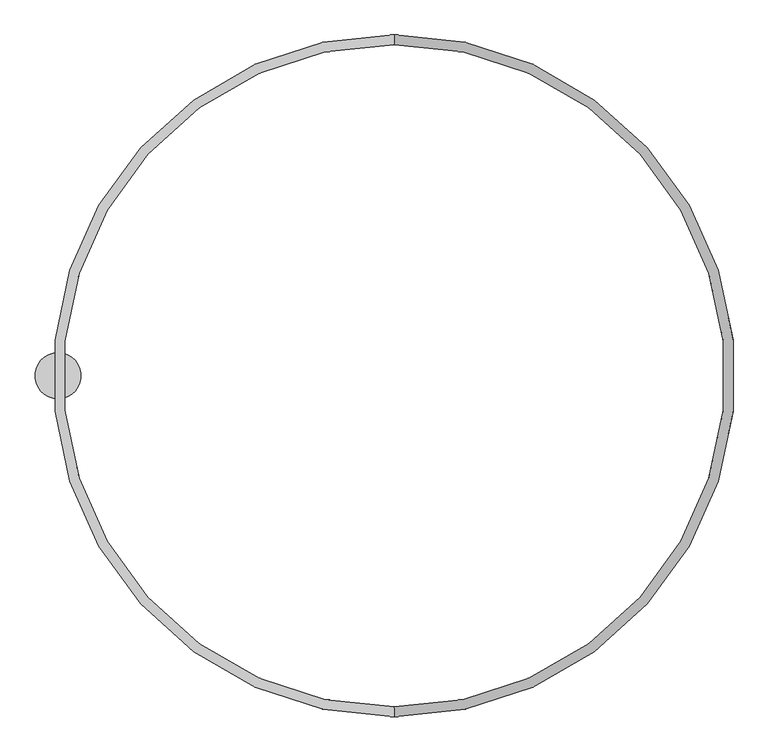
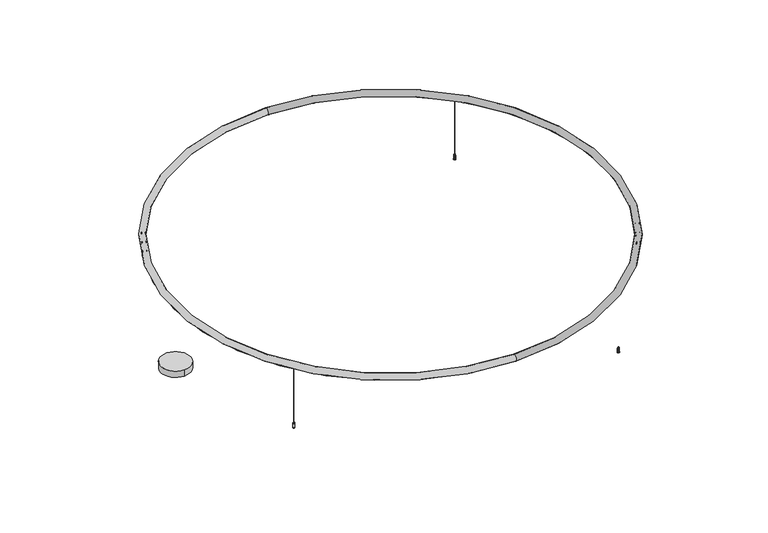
"""IFC4 building model written with IfcOpenShell, lengths in millimetres: light fixture geometry, ARTEMIDE-AoL-StandAlone-Circular_Suspended : StandALone_Suspended_Circular-3500mm 21478lm 3000K."""

from ifc_helpers import new_model, si_unit, point, frame, frame_2d, origin, origin_with_axes, origin_2d, place, context, project, spatial, polyline, circle_curve, ellipse_curve, trimmed, segment, composite_curve, outline, extrude, source, transform, mapped, element, save
from ifc_brep_helpers import plane_surface, cylinder_surface, revolved_surface, advanced_brep


def light_fixture_91a5dee6(model_context):
    return source(origin(), model_context, "Body", "SolidModel", [
        advanced_brep(
        [(2946.0, 1219.7591975, 41.0209548), (2944.0, 1219.7591975, 41.0209548), (2939.5097745, 1219.7591975, 41.0209548), (2950.4902255, 1219.7591975, 41.0209548), (2946.0, 1219.7591975, 0.0), (2944.0, 1219.7591975, 0.0), (2953.5523699, 1219.7591975, 0.0), (2936.4476301, 1219.7591975, 0.0), (2953.5523699, 1219.7591975, 2.0209548), (2936.4476301, 1219.7591975, 2.0209548), (2951.5523699, 1219.7591975, 2.0209548), (2938.4476301, 1219.7591975, 2.0209548), (2951.5523699, 1219.7591975, 30.9721976), (2938.4476301, 1219.7591975, 30.9721976), (2950.4902255, 1219.7591975, 30.9721976), (2939.5097745, 1219.7591975, 30.9721976)],
        [
            (0, 1, circle_curve(frame((2945.0, 1219.7591975, 41.0209548), z_axis=(0.0, 0.0, -1.0), x_axis=(-1.0, 0.0, 0.0)), 1.0)),
            (1, 2),
            (2, 3, circle_curve(frame((2945.0, 1219.7591975, 41.0209548), z_axis=(0.0, 0.0, 1.0), x_axis=(-1.0, 0.0, 0.0)), 5.4902255)),
            (3, 0),
            (1, 0, circle_curve(frame((2945.0, 1219.7591975, 41.0209548), z_axis=(0.0, 0.0, -1.0), x_axis=(-1.0, 0.0, 0.0)), 1.0)),
            (3, 2, circle_curve(frame((2945.0, 1219.7591975, 41.0209548), z_axis=(0.0, 0.0, 1.0), x_axis=(-1.0, 0.0, 0.0)), 5.4902255)),
            (4, 5, circle_curve(frame((2945.0, 1219.7591975, 0.0), z_axis=(0.0, 0.0, -1.0), x_axis=(-1.0, 0.0, 0.0)), 1.0)),
            (5, 1),
            (0, 4),
            (5, 4, circle_curve(frame((2945.0, 1219.7591975, 0.0), z_axis=(0.0, 0.0, -1.0), x_axis=(-1.0, 0.0, 0.0)), 1.0)),
            (6, 7, circle_curve(frame((2945.0, 1219.7591975, 0.0), z_axis=(0.0, 0.0, -1.0), x_axis=(-1.0, 0.0, 0.0)), 8.5523699)),
            (7, 5),
            (4, 6),
            (7, 6, circle_curve(frame((2945.0, 1219.7591975, 0.0), z_axis=(0.0, 0.0, -1.0), x_axis=(-1.0, 0.0, 0.0)), 8.5523699)),
            (8, 9, circle_curve(frame((2945.0, 1219.7591975, 2.0209548), z_axis=(0.0, 0.0, -1.0), x_axis=(-1.0, 0.0, 0.0)), 8.5523699)),
            (9, 7),
            (6, 8),
            (9, 8, circle_curve(frame((2945.0, 1219.7591975, 2.0209548), z_axis=(0.0, 0.0, -1.0), x_axis=(-1.0, 0.0, 0.0)), 8.5523699)),
            (10, 11, circle_curve(frame((2945.0, 1219.7591975, 2.0209548), z_axis=(0.0, 0.0, -1.0), x_axis=(-1.0, 0.0, 0.0)), 6.5523699)),
            (11, 9),
            (8, 10),
            (11, 10, circle_curve(frame((2945.0, 1219.7591975, 2.0209548), z_axis=(0.0, 0.0, -1.0), x_axis=(-1.0, 0.0, 0.0)), 6.5523699)),
            (12, 13, circle_curve(frame((2945.0, 1219.7591975, 30.9721976), z_axis=(0.0, 0.0, -1.0), x_axis=(-1.0, 0.0, 0.0)), 6.5523699)),
            (13, 11),
            (10, 12),
            (13, 12, circle_curve(frame((2945.0, 1219.7591975, 30.9721976), z_axis=(0.0, 0.0, -1.0), x_axis=(-1.0, 0.0, 0.0)), 6.5523699)),
            (14, 15, circle_curve(frame((2945.0, 1219.7591975, 30.9721976), z_axis=(0.0, 0.0, -1.0), x_axis=(-1.0, 0.0, 0.0)), 5.4902255)),
            (15, 13),
            (12, 14),
            (15, 14, circle_curve(frame((2945.0, 1219.7591975, 30.9721976), z_axis=(0.0, 0.0, -1.0), x_axis=(-1.0, 0.0, 0.0)), 5.4902255)),
            (2, 15),
            (14, 3),
        ],
        [
            plane_surface(frame((2945.0, 1219.7591975, 41.0209548), z_axis=(0.0, 0.0, 1.0), x_axis=(-1.0, 0.0, 0.0))),
            revolved_surface(polyline([(2944.0, 1219.7591975, 41.02095480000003), (2944.0, 1219.7591975, 0.0)]), (2945.0, 1219.7591975, 391.16642), (0.0, 0.0, 1.0)),
            plane_surface(frame((2945.0, 1219.7591975, 0.0), z_axis=(0.0, 0.0, -1.0), x_axis=(-1.0, 0.0, 0.0))),
            cylinder_surface(frame((2945.0, 1219.7591975, 391.16642), z_axis=(0.0, 0.0, 1.0), x_axis=(-1.0, 0.0, 0.0)), 8.5523699),
            plane_surface(frame((2945.0, 1219.7591975, 2.0209548), z_axis=(0.0, 0.0, 1.0), x_axis=(-1.0, 0.0, 0.0))),
            cylinder_surface(frame((2945.0, 1219.7591975, 391.16642), z_axis=(0.0, 0.0, 1.0), x_axis=(-1.0, 0.0, 0.0)), 6.5523699),
            plane_surface(frame((2945.0, 1219.7591975, 30.9721976), z_axis=(0.0, 0.0, 1.0), x_axis=(-1.0, 0.0, 0.0))),
            cylinder_surface(frame((2945.0, 1219.7591975, 391.16642), z_axis=(0.0, 0.0, 1.0), x_axis=(-1.0, 0.0, 0.0)), 5.4902255),
        ],
        [
            (0, [[1, 2, 3, 4]]),
            (0, [[5, -4, 6, -2]]),
            (1, [[7, 8, -1, 9]]),
            (1, [[10, -9, -5, -8]]),
            (2, [[11, 12, -7, 13]]),
            (2, [[14, -13, -10, -12]]),
            (3, [[15, 16, -11, 17]]),
            (3, [[18, -17, -14, -16]]),
            (4, [[19, 20, -15, 21]]),
            (4, [[22, -21, -18, -20]]),
            (5, [[23, 24, -19, 25]]),
            (5, [[26, -25, -22, -24]]),
            (6, [[27, 28, -23, 29]]),
            (6, [[30, -29, -26, -28]]),
            (7, [[-3, 31, -27, 32]]),
            (7, [[-6, -32, -30, -31]]),
        ],
    ),
        extrude(outline(composite_curve([segment(trimmed(circle_curve(frame_2d((2945.0, 1219.7591975)), 0.8), [point((2944.2, 1219.7591975))], [point((2945.8, 1219.7591975))], False, "CARTESIAN"), True, "CONTINUOUS"), segment(trimmed(circle_curve(frame_2d((2945.0, 1219.7591975)), 0.8), [point((2945.8, 1219.7591975))], [point((2944.2, 1219.7591975))], False, "CARTESIAN"), True, "CONTINUOUS")], self_intersect=False)), origin_with_axes(), (0.0, 0.0, 1.0), 500.0),
        advanced_brep(
        [(351.0, -1038.0, 41.0209548), (349.0, -1038.0, 41.0209548), (344.5097745, -1038.0, 41.0209548), (355.4902255, -1038.0, 41.0209548), (351.0, -1038.0, 0.0), (349.0, -1038.0, 0.0), (358.5523699, -1038.0, 0.0), (341.4476301, -1038.0, 0.0), (358.5523699, -1038.0, 2.0209548), (341.4476301, -1038.0, 2.0209548), (356.5523699, -1038.0, 2.0209548), (343.4476301, -1038.0, 2.0209548), (356.5523699, -1038.0, 30.9721976), (343.4476301, -1038.0, 30.9721976), (355.4902255, -1038.0, 30.9721976), (344.5097745, -1038.0, 30.9721976)],
        [
            (0, 1, circle_curve(frame((350.0, -1038.0, 41.0209548), z_axis=(0.0, 0.0, -1.0), x_axis=(-1.0, 0.0, 0.0)), 1.0)),
            (1, 2),
            (2, 3, circle_curve(frame((350.0, -1038.0, 41.0209548), z_axis=(0.0, 0.0, 1.0), x_axis=(-1.0, 0.0, 0.0)), 5.4902255)),
            (3, 0),
            (1, 0, circle_curve(frame((350.0, -1038.0, 41.0209548), z_axis=(0.0, 0.0, -1.0), x_axis=(-1.0, 0.0, 0.0)), 1.0)),
            (3, 2, circle_curve(frame((350.0, -1038.0, 41.0209548), z_axis=(0.0, 0.0, 1.0), x_axis=(-1.0, 0.0, 0.0)), 5.4902255)),
            (4, 5, circle_curve(frame((350.0, -1038.0, 0.0), z_axis=(0.0, 0.0, -1.0), x_axis=(-1.0, 0.0, 0.0)), 1.0)),
            (5, 1),
            (0, 4),
            (5, 4, circle_curve(frame((350.0, -1038.0, 0.0), z_axis=(0.0, 0.0, -1.0), x_axis=(-1.0, 0.0, 0.0)), 1.0)),
            (6, 7, circle_curve(frame((350.0, -1038.0, 0.0), z_axis=(0.0, 0.0, -1.0), x_axis=(-1.0, 0.0, 0.0)), 8.5523699)),
            (7, 5),
            (4, 6),
            (7, 6, circle_curve(frame((350.0, -1038.0, 0.0), z_axis=(0.0, 0.0, -1.0), x_axis=(-1.0, 0.0, 0.0)), 8.5523699)),
            (8, 9, circle_curve(frame((350.0, -1038.0, 2.0209548), z_axis=(0.0, 0.0, -1.0), x_axis=(-1.0, 0.0, 0.0)), 8.5523699)),
            (9, 7),
            (6, 8),
            (9, 8, circle_curve(frame((350.0, -1038.0, 2.0209548), z_axis=(0.0, 0.0, -1.0), x_axis=(-1.0, 0.0, 0.0)), 8.5523699)),
            (10, 11, circle_curve(frame((350.0, -1038.0, 2.0209548), z_axis=(0.0, 0.0, -1.0), x_axis=(-1.0, 0.0, 0.0)), 6.5523699)),
            (11, 9),
            (8, 10),
            (11, 10, circle_curve(frame((350.0, -1038.0, 2.0209548), z_axis=(0.0, 0.0, -1.0), x_axis=(-1.0, 0.0, 0.0)), 6.5523699)),
            (12, 13, circle_curve(frame((350.0, -1038.0, 30.9721976), z_axis=(0.0, 0.0, -1.0), x_axis=(-1.0, 0.0, 0.0)), 6.5523699)),
            (13, 11),
            (10, 12),
            (13, 12, circle_curve(frame((350.0, -1038.0, 30.9721976), z_axis=(0.0, 0.0, -1.0), x_axis=(-1.0, 0.0, 0.0)), 6.5523699)),
            (14, 15, circle_curve(frame((350.0, -1038.0, 30.9721976), z_axis=(0.0, 0.0, -1.0), x_axis=(-1.0, 0.0, 0.0)), 5.4902255)),
            (15, 13),
            (12, 14),
            (15, 14, circle_curve(frame((350.0, -1038.0, 30.9721976), z_axis=(0.0, 0.0, -1.0), x_axis=(-1.0, 0.0, 0.0)), 5.4902255)),
            (2, 15),
            (14, 3),
        ],
        [
            plane_surface(frame((350.0, -1038.0, 41.0209548), z_axis=(0.0, 0.0, 1.0), x_axis=(-1.0, 0.0, 0.0))),
            revolved_surface(polyline([(349.0, -1038.0, 41.02095480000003), (349.0, -1038.0, 0.0)]), (350.0, -1038.0, 391.16642), (0.0, 0.0, 1.0)),
            plane_surface(frame((350.0, -1038.0, 0.0), z_axis=(0.0, 0.0, -1.0), x_axis=(-1.0, 0.0, 0.0))),
            cylinder_surface(frame((350.0, -1038.0, 391.16642), z_axis=(0.0, 0.0, 1.0), x_axis=(-1.0, 0.0, 0.0)), 8.5523699),
            plane_surface(frame((350.0, -1038.0, 2.0209548), z_axis=(0.0, 0.0, 1.0), x_axis=(-1.0, 0.0, 0.0))),
            cylinder_surface(frame((350.0, -1038.0, 391.16642), z_axis=(0.0, 0.0, 1.0), x_axis=(-1.0, 0.0, 0.0)), 6.5523699),
            plane_surface(frame((350.0, -1038.0, 30.9721976), z_axis=(0.0, 0.0, 1.0), x_axis=(-1.0, 0.0, 0.0))),
            cylinder_surface(frame((350.0, -1038.0, 391.16642), z_axis=(0.0, 0.0, 1.0), x_axis=(-1.0, 0.0, 0.0)), 5.4902255),
        ],
        [
            (0, [[1, 2, 3, 4]]),
            (0, [[5, -4, 6, -2]]),
            (1, [[7, 8, -1, 9]]),
            (1, [[10, -9, -5, -8]]),
            (2, [[11, 12, -7, 13]]),
            (2, [[14, -13, -10, -12]]),
            (3, [[15, 16, -11, 17]]),
            (3, [[18, -17, -14, -16]]),
            (4, [[19, 20, -15, 21]]),
            (4, [[22, -21, -18, -20]]),
            (5, [[23, 24, -19, 25]]),
            (5, [[26, -25, -22, -24]]),
            (6, [[27, 28, -23, 29]]),
            (6, [[30, -29, -26, -28]]),
            (7, [[-3, 31, -27, 32]]),
            (7, [[-6, -32, -30, -31]]),
        ],
    ),
        extrude(outline(composite_curve([segment(trimmed(circle_curve(frame_2d((350.0, -1038.0)), 0.8), [point((349.2, -1038.0))], [point((350.8, -1038.0))], False, "CARTESIAN"), True, "CONTINUOUS"), segment(trimmed(circle_curve(frame_2d((350.0, -1038.0)), 0.8), [point((350.8, -1038.0))], [point((349.2, -1038.0))], False, "CARTESIAN"), True, "CONTINUOUS")], self_intersect=False)), origin_with_axes(), (0.0, 0.0, 1.0), 500.0),
        advanced_brep(
        [(2761.0, -1377.5, 41.0209548), (2759.0, -1377.5, 41.0209548), (2754.5097745, -1377.5, 41.0209548), (2765.4902255, -1377.5, 41.0209548), (2761.0, -1377.5, 0.0), (2759.0, -1377.5, 0.0), (2768.5523699, -1377.5, 0.0), (2751.4476301, -1377.5, 0.0), (2768.5523699, -1377.5, 2.0209548), (2751.4476301, -1377.5, 2.0209548), (2766.5523699, -1377.5, 2.0209548), (2753.4476301, -1377.5, 2.0209548), (2766.5523699, -1377.5, 30.9721976), (2753.4476301, -1377.5, 30.9721976), (2765.4902255, -1377.5, 30.9721976), (2754.5097745, -1377.5, 30.9721976)],
        [
            (0, 1, circle_curve(frame((2760.0, -1377.5, 41.0209548), z_axis=(0.0, 0.0, -1.0), x_axis=(-1.0, 0.0, 0.0)), 1.0)),
            (1, 2),
            (2, 3, circle_curve(frame((2760.0, -1377.5, 41.0209548), z_axis=(0.0, 0.0, 1.0), x_axis=(-1.0, 0.0, 0.0)), 5.4902255)),
            (3, 0),
            (1, 0, circle_curve(frame((2760.0, -1377.5, 41.0209548), z_axis=(0.0, 0.0, -1.0), x_axis=(-1.0, 0.0, 0.0)), 1.0)),
            (3, 2, circle_curve(frame((2760.0, -1377.5, 41.0209548), z_axis=(0.0, 0.0, 1.0), x_axis=(-1.0, 0.0, 0.0)), 5.4902255)),
            (4, 5, circle_curve(frame((2760.0, -1377.5, 0.0), z_axis=(0.0, 0.0, -1.0), x_axis=(-1.0, 0.0, 0.0)), 1.0)),
            (5, 1),
            (0, 4),
            (5, 4, circle_curve(frame((2760.0, -1377.5, 0.0), z_axis=(0.0, 0.0, -1.0), x_axis=(-1.0, 0.0, 0.0)), 1.0)),
            (6, 7, circle_curve(frame((2760.0, -1377.5, 0.0), z_axis=(0.0, 0.0, -1.0), x_axis=(-1.0, 0.0, 0.0)), 8.5523699)),
            (7, 5),
            (4, 6),
            (7, 6, circle_curve(frame((2760.0, -1377.5, 0.0), z_axis=(0.0, 0.0, -1.0), x_axis=(-1.0, 0.0, 0.0)), 8.5523699)),
            (8, 9, circle_curve(frame((2760.0, -1377.5, 2.0209548), z_axis=(0.0, 0.0, -1.0), x_axis=(-1.0, 0.0, 0.0)), 8.5523699)),
            (9, 7),
            (6, 8),
            (9, 8, circle_curve(frame((2760.0, -1377.5, 2.0209548), z_axis=(0.0, 0.0, -1.0), x_axis=(-1.0, 0.0, 0.0)), 8.5523699)),
            (10, 11, circle_curve(frame((2760.0, -1377.5, 2.0209548), z_axis=(0.0, 0.0, -1.0), x_axis=(-1.0, 0.0, 0.0)), 6.5523699)),
            (11, 9),
            (8, 10),
            (11, 10, circle_curve(frame((2760.0, -1377.5, 2.0209548), z_axis=(0.0, 0.0, -1.0), x_axis=(-1.0, 0.0, 0.0)), 6.5523699)),
            (12, 13, circle_curve(frame((2760.0, -1377.5, 30.9721976), z_axis=(0.0, 0.0, -1.0), x_axis=(-1.0, 0.0, 0.0)), 6.5523699)),
            (13, 11),
            (10, 12),
            (13, 12, circle_curve(frame((2760.0, -1377.5, 30.9721976), z_axis=(0.0, 0.0, -1.0), x_axis=(-1.0, 0.0, 0.0)), 6.5523699)),
            (14, 15, circle_curve(frame((2760.0, -1377.5, 30.9721976), z_axis=(0.0, 0.0, -1.0), x_axis=(-1.0, 0.0, 0.0)), 5.4902255)),
            (15, 13),
            (12, 14),
            (15, 14, circle_curve(frame((2760.0, -1377.5, 30.9721976), z_axis=(0.0, 0.0, -1.0), x_axis=(-1.0, 0.0, 0.0)), 5.4902255)),
            (2, 15),
            (14, 3),
        ],
        [
            plane_surface(frame((2760.0, -1377.5, 41.0209548), z_axis=(0.0, 0.0, 1.0), x_axis=(-1.0, 0.0, 0.0))),
            revolved_surface(polyline([(2759.0, -1377.5, 41.02095480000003), (2759.0, -1377.5, 0.0)]), (2760.0, -1377.5, 391.16642), (0.0, 0.0, 1.0)),
            plane_surface(frame((2760.0, -1377.5, 0.0), z_axis=(0.0, 0.0, -1.0), x_axis=(-1.0, 0.0, 0.0))),
            cylinder_surface(frame((2760.0, -1377.5, 391.16642), z_axis=(0.0, 0.0, 1.0), x_axis=(-1.0, 0.0, 0.0)), 8.5523699),
            plane_surface(frame((2760.0, -1377.5, 2.0209548), z_axis=(0.0, 0.0, 1.0), x_axis=(-1.0, 0.0, 0.0))),
            cylinder_surface(frame((2760.0, -1377.5, 391.16642), z_axis=(0.0, 0.0, 1.0), x_axis=(-1.0, 0.0, 0.0)), 6.5523699),
            plane_surface(frame((2760.0, -1377.5, 30.9721976), z_axis=(0.0, 0.0, 1.0), x_axis=(-1.0, 0.0, 0.0))),
            cylinder_surface(frame((2760.0, -1377.5, 391.16642), z_axis=(0.0, 0.0, 1.0), x_axis=(-1.0, 0.0, 0.0)), 5.4902255),
        ],
        [
            (0, [[1, 2, 3, 4]]),
            (0, [[5, -4, 6, -2]]),
            (1, [[7, 8, -1, 9]]),
            (1, [[10, -9, -5, -8]]),
            (2, [[11, 12, -7, 13]]),
            (2, [[14, -13, -10, -12]]),
            (3, [[15, 16, -11, 17]]),
            (3, [[18, -17, -14, -16]]),
            (4, [[19, 20, -15, 21]]),
            (4, [[22, -21, -18, -20]]),
            (5, [[23, 24, -19, 25]]),
            (5, [[26, -25, -22, -24]]),
            (6, [[27, 28, -23, 29]]),
            (6, [[30, -29, -26, -28]]),
            (7, [[-3, 31, -27, 32]]),
            (7, [[-6, -32, -30, -31]]),
        ],
    ),
        extrude(outline(composite_curve([segment(trimmed(circle_curve(origin_2d(), 118.5), [point((0.0, 118.5))], [point((0.0, -118.5))], False, "CARTESIAN"), True, "CONTINUOUS"), segment(trimmed(circle_curve(origin_2d(), 118.5), [point((0.0, -118.5))], [point((0.0, 118.5))], False, "CARTESIAN"), True, "CONTINUOUS")], self_intersect=False)), origin_with_axes(), (0.0, 0.0, 1.0), 54.0),
        advanced_brep(
        [(1725.3445739, -1713.1969999, 502.9151372), (1725.3445739, 1713.3030001, 502.9151372), (1725.3445739, 1736.8030001, 502.9151372), (1725.3445739, -1736.6969999, 502.9151372), (1725.3445739, -1713.1969999, 507.2410096), (1725.3445739, 1713.3030001, 507.2410096), (1725.3445739, -1711.2792459, 505.8106819), (1725.3445739, 1711.3852461, 505.8106819), (1725.3445739, 1711.3852461, 507.2410096), (1725.3445739, -1711.2792459, 507.2410096), (1725.3445739, -1709.3292459, 507.2258724), (1725.3445739, 1709.4352461, 507.2258724), (1725.3445739, -1709.3292459, 509.2258716), (1725.3445739, 1709.4352461, 509.2258716), (1725.3445739, -1712.2792459, 510.7258716), (1725.3445739, 1712.3852461, 510.7258716), (1725.3445739, 1712.3852461, 509.2258716), (1725.3445739, -1712.2792459, 509.2258716), (1725.3445739, -1742.2249794, 510.7258716), (1725.3445739, 1742.3309795, 510.7258716), (1725.3445739, 1707.7750206, 510.7258716), (1725.3445739, -1707.6690205, 510.7258716), (1725.3445739, -1737.6147539, 509.2258716), (1725.3445739, 1737.7207541, 509.2258716), (1725.3445739, 1737.7207541, 510.7258716), (1725.3445739, -1737.6147539, 510.7258716), (1725.3445739, -1740.5647539, 507.2258724), (1725.3445739, 1740.6707541, 507.2258724), (1725.3445739, 1740.6707541, 509.2258716), (1725.3445739, -1740.5647539, 509.2258716), (1725.3445739, -1738.6147539, 505.8106819), (1725.3445739, 1738.7207541, 505.8106819), (1725.3445739, -1738.6147539, 507.2410096), (1725.3445739, 1738.7207541, 507.2410096), (1725.3445739, 1736.8030001, 507.2410096), (1725.3445739, -1736.6969999, 507.2410096)],
        [
            (0, 1, circle_curve(frame((1725.3445739, 0.0530001, 502.9151372), z_axis=(0.0, 0.0, -1.0), x_axis=(0.0, 1.0, 0.0)), 1713.25)),
            (1, 2, circle_curve(frame((1725.3445739, 1725.0530001, 524.9817976), z_axis=(-1.0, 0.0, 0.0), x_axis=(0.0, -1.0, 0.0)), 25.0)),
            (2, 3, circle_curve(frame((1725.3445739, 0.0530001, 502.9151372), z_axis=(0.0, 0.0, 1.0), x_axis=(0.0, 1.0, 0.0)), 1736.75)),
            (3, 0, circle_curve(frame((1725.3445739, -1724.9469999, 524.9817976), z_axis=(-1.0, 0.0, 0.0), x_axis=(0.0, 1.0, 0.0)), 25.0)),
            (4, 5, circle_curve(frame((1725.3445739, 0.0530001, 507.2410096), z_axis=(0.0, 0.0, -1.0), x_axis=(0.0, 1.0, 0.0)), 1713.25)),
            (5, 1),
            (0, 4),
            (6, 7, circle_curve(frame((1725.3445739, 0.0530001, 505.8106819), z_axis=(0.0, 0.0, -1.0), x_axis=(0.0, 1.0, 0.0)), 1711.332246)),
            (7, 8),
            (8, 9, circle_curve(frame((1725.3445739, 0.0530001, 507.2410096), z_axis=(0.0, 0.0, 1.0), x_axis=(0.0, 1.0, 0.0)), 1711.332246)),
            (9, 6),
            (10, 11, circle_curve(frame((1725.3445739, 0.0530001, 507.2258724), z_axis=(0.0, 0.0, -1.0), x_axis=(0.0, 1.0, 0.0)), 1709.382246)),
            (11, 7),
            (6, 10),
            (12, 13, circle_curve(frame((1725.3445739, 0.0530001, 509.2258716), z_axis=(0.0, 0.0, -1.0), x_axis=(0.0, 1.0, 0.0)), 1709.382246)),
            (13, 11),
            (10, 12),
            (14, 15, circle_curve(frame((1725.3445739, 0.0530001, 510.7258716), z_axis=(0.0, 0.0, -1.0), x_axis=(0.0, 1.0, 0.0)), 1712.332246)),
            (15, 16),
            (16, 17, circle_curve(frame((1725.3445739, 0.0530001, 509.2258716), z_axis=(0.0, 0.0, 1.0), x_axis=(0.0, 1.0, 0.0)), 1712.332246)),
            (17, 14),
            (18, 19, circle_curve(frame((1725.3445739, 0.0530001, 510.7258716), z_axis=(0.0, 0.0, -1.0), x_axis=(0.0, 1.0, 0.0)), 1742.2779794)),
            (19, 20, circle_curve(frame((1725.3445739, 1725.0530001, 524.9817976), z_axis=(1.0, 0.0, 0.0), x_axis=(0.0, -1.0, 0.0)), 22.4)),
            (20, 21, circle_curve(frame((1725.3445739, 0.0530001, 510.7258716), z_axis=(0.0, 0.0, 1.0), x_axis=(0.0, 1.0, 0.0)), 1707.7220206)),
            (21, 18, circle_curve(frame((1725.3445739, -1724.9469999, 524.9817976), z_axis=(1.0, 0.0, 0.0), x_axis=(0.0, 1.0, 0.0)), 22.4)),
            (22, 23, circle_curve(frame((1725.3445739, 0.0530001, 509.2258716), z_axis=(0.0, 0.0, -1.0), x_axis=(0.0, 1.0, 0.0)), 1737.667754)),
            (23, 24),
            (24, 25, circle_curve(frame((1725.3445739, 0.0530001, 510.7258716), z_axis=(0.0, 0.0, 1.0), x_axis=(0.0, 1.0, 0.0)), 1737.667754)),
            (25, 22),
            (26, 27, circle_curve(frame((1725.3445739, 0.0530001, 507.2258724), z_axis=(0.0, 0.0, -1.0), x_axis=(0.0, 1.0, 0.0)), 1740.617754)),
            (27, 28),
            (28, 29, circle_curve(frame((1725.3445739, 0.0530001, 509.2258716), z_axis=(0.0, 0.0, 1.0), x_axis=(0.0, 1.0, 0.0)), 1740.617754)),
            (29, 26),
            (30, 31, circle_curve(frame((1725.3445739, 0.0530001, 505.8106819), z_axis=(0.0, 0.0, -1.0), x_axis=(0.0, 1.0, 0.0)), 1738.667754)),
            (31, 27),
            (26, 30),
            (32, 33, circle_curve(frame((1725.3445739, 0.0530001, 507.2410096), z_axis=(0.0, 0.0, -1.0), x_axis=(0.0, 1.0, 0.0)), 1738.667754)),
            (33, 31),
            (30, 32),
            (2, 34),
            (34, 35, circle_curve(frame((1725.3445739, 0.0530001, 507.2410096), z_axis=(0.0, 0.0, 1.0), x_axis=(0.0, 1.0, 0.0)), 1736.75)),
            (35, 3),
            (1, 0, circle_curve(frame((1725.3445739, 0.0530001, 502.9151372), z_axis=(0.0, 0.0, -1.0), x_axis=(0.0, -1.0, 0.0)), 1713.25)),
            (3, 2, circle_curve(frame((1725.3445739, 0.0530001, 502.9151372), z_axis=(0.0, 0.0, 1.0), x_axis=(0.0, -1.0, 0.0)), 1736.75)),
            (5, 4, circle_curve(frame((1725.3445739, 0.0530001, 507.2410096), z_axis=(0.0, 0.0, -1.0), x_axis=(0.0, -1.0, 0.0)), 1713.25)),
            (8, 9, circle_curve(frame((1725.3445739, 0.0530001, 507.2410096), z_axis=(0.0, 0.0, -1.0), x_axis=(0.0, -1.0, 0.0)), 1711.332246)),
            (7, 6, circle_curve(frame((1725.3445739, 0.0530001, 505.8106819), z_axis=(0.0, 0.0, -1.0), x_axis=(0.0, -1.0, 0.0)), 1711.332246)),
            (11, 10, circle_curve(frame((1725.3445739, 0.0530001, 507.2258724), z_axis=(0.0, 0.0, -1.0), x_axis=(0.0, -1.0, 0.0)), 1709.382246)),
            (13, 12, circle_curve(frame((1725.3445739, 0.0530001, 509.2258716), z_axis=(0.0, 0.0, -1.0), x_axis=(0.0, -1.0, 0.0)), 1709.382246)),
            (16, 17, circle_curve(frame((1725.3445739, 0.0530001, 509.2258716), z_axis=(0.0, 0.0, -1.0), x_axis=(0.0, -1.0, 0.0)), 1712.332246)),
            (15, 14, circle_curve(frame((1725.3445739, 0.0530001, 510.7258716), z_axis=(0.0, 0.0, -1.0), x_axis=(0.0, -1.0, 0.0)), 1712.332246)),
            (20, 21, circle_curve(frame((1725.3445739, 0.0530001, 510.7258716), z_axis=(0.0, 0.0, -1.0), x_axis=(0.0, -1.0, 0.0)), 1707.7220206)),
            (19, 18, circle_curve(frame((1725.3445739, 0.0530001, 510.7258716), z_axis=(0.0, 0.0, -1.0), x_axis=(0.0, -1.0, 0.0)), 1742.2779794)),
            (24, 25, circle_curve(frame((1725.3445739, 0.0530001, 510.7258716), z_axis=(0.0, 0.0, -1.0), x_axis=(0.0, -1.0, 0.0)), 1737.667754)),
            (23, 22, circle_curve(frame((1725.3445739, 0.0530001, 509.2258716), z_axis=(0.0, 0.0, -1.0), x_axis=(0.0, -1.0, 0.0)), 1737.667754)),
            (28, 29, circle_curve(frame((1725.3445739, 0.0530001, 509.2258716), z_axis=(0.0, 0.0, -1.0), x_axis=(0.0, -1.0, 0.0)), 1740.617754)),
            (27, 26, circle_curve(frame((1725.3445739, 0.0530001, 507.2258724), z_axis=(0.0, 0.0, -1.0), x_axis=(0.0, -1.0, 0.0)), 1740.617754)),
            (31, 30, circle_curve(frame((1725.3445739, 0.0530001, 505.8106819), z_axis=(0.0, 0.0, -1.0), x_axis=(0.0, -1.0, 0.0)), 1738.667754)),
            (33, 32, circle_curve(frame((1725.3445739, 0.0530001, 507.2410096), z_axis=(0.0, 0.0, -1.0), x_axis=(0.0, -1.0, 0.0)), 1738.667754)),
            (34, 35, circle_curve(frame((1725.3445739, 0.0530001, 507.2410096), z_axis=(0.0, 0.0, -1.0), x_axis=(0.0, -1.0, 0.0)), 1736.75)),
        ],
        [
            revolved_surface(trimmed(ellipse_curve(frame((1725.3445739, 1725.0530001, 524.9817976), z_axis=(1.0, 0.0, 0.0), x_axis=(0.0, -1.0, 0.0)), 25.0, 25.0), [point((1725.3445739, 1736.8030001, 502.9151372))], [point((1725.3445739, 1713.3030001, 502.9151372))], True, "CARTESIAN"), (1725.3445739, 0.0530001, 500.0), (0.0, 0.0, 1.0)),
            cylinder_surface(frame((1725.3445739, 0.0530001, 500.0), z_axis=(0.0, 0.0, 1.0), x_axis=(0.0, 1.0, 0.0)), 1713.25),
            revolved_surface(polyline([(1725.3445739, 1711.3852461, 507.2410096), (1725.3445739, 1711.3852461, 505.8106819)]), (1725.3445739, 0.0530001, 500.0), (0.0, 0.0, 1.0)),
            revolved_surface(polyline([(1725.3445739, 1711.3852461, 505.8106819), (1725.3445739, 1709.4352461, 507.2258724)]), (1725.3445739, 0.0530001, 500.0), (0.0, 0.0, 1.0)),
            cylinder_surface(frame((1725.3445739, 0.0530001, 500.0), z_axis=(0.0, 0.0, 1.0), x_axis=(0.0, 1.0, 0.0)), 1709.382246),
            cylinder_surface(frame((1725.3445739, 0.0530001, 500.0), z_axis=(0.0, 0.0, 1.0), x_axis=(0.0, 1.0, 0.0)), 1712.332246),
            revolved_surface(trimmed(ellipse_curve(frame((1725.3445739, 1725.0530001, 524.9817976), z_axis=(-1.0, 0.0, 0.0), x_axis=(0.0, -1.0, 0.0)), 22.4, 22.4), [point((1725.3445739, 1707.7750206, 510.7258716))], [point((1725.3445739, 1742.3309795, 510.7258716))], True, "CARTESIAN"), (1725.3445739, 0.0530001, 500.0), (0.0, 0.0, 1.0)),
            revolved_surface(polyline([(1725.3445739, 1737.7207541, 510.7258716), (1725.3445739, 1737.7207541, 509.2258716)]), (1725.3445739, 0.0530001, 500.0), (0.0, 0.0, 1.0)),
            revolved_surface(polyline([(1725.3445739, 1740.6707541, 509.2258716), (1725.3445739, 1740.6707541, 507.2258724)]), (1725.3445739, 0.0530001, 500.0), (0.0, 0.0, 1.0)),
            revolved_surface(polyline([(1725.3445739, 1740.6707541, 507.2258724), (1725.3445739, 1738.7207541, 505.8106819)]), (1725.3445739, 0.0530001, 500.0), (0.0, 0.0, 1.0)),
            cylinder_surface(frame((1725.3445739, 0.0530001, 500.0), z_axis=(0.0, 0.0, 1.0), x_axis=(0.0, 1.0, 0.0)), 1738.667754),
            revolved_surface(polyline([(1725.3445739, 1736.8030001, 507.2410096), (1725.3445739, 1736.8030001, 502.9151372)]), (1725.3445739, 0.0530001, 500.0), (0.0, 0.0, 1.0)),
            revolved_surface(trimmed(ellipse_curve(frame((1725.3445739, -1724.9469999, 524.9817976), z_axis=(-1.0, 0.0, 0.0), x_axis=(0.0, 1.0, 0.0)), 25.0, 25.0), [point((1725.3445739, -1736.6969999, 502.9151372))], [point((1725.3445739, -1713.1969999, 502.9151372))], True, "CARTESIAN"), (1725.3445739, 0.0530001, 500.0), (0.0, 0.0, 1.0)),
            cylinder_surface(frame((1725.3445739, 0.0530001, 500.0), z_axis=(0.0, 0.0, 1.0), x_axis=(0.0, -1.0, 0.0)), 1713.25),
            plane_surface(frame((1725.3445739, 0.0530001, 507.2410096), z_axis=(0.0, 0.0, 1.0), x_axis=(0.0, -1.0, 0.0))),
            revolved_surface(polyline([(1725.3445739, -1711.2792459, 507.2410096), (1725.3445739, -1711.2792459, 505.8106819)]), (1725.3445739, 0.0530001, 500.0), (0.0, 0.0, 1.0)),
            revolved_surface(polyline([(1725.3445739, -1711.2792459, 505.8106819), (1725.3445739, -1709.3292459, 507.2258724)]), (1725.3445739, 0.0530001, 500.0), (0.0, 0.0, 1.0)),
            cylinder_surface(frame((1725.3445739, 0.0530001, 500.0), z_axis=(0.0, 0.0, 1.0), x_axis=(0.0, -1.0, 0.0)), 1709.382246),
            plane_surface(frame((1725.3445739, 0.0530001, 509.2258716), z_axis=(0.0, 0.0, -1.0), x_axis=(0.0, -1.0, 0.0))),
            cylinder_surface(frame((1725.3445739, 0.0530001, 500.0), z_axis=(0.0, 0.0, 1.0), x_axis=(0.0, -1.0, 0.0)), 1712.332246),
            plane_surface(frame((1725.3445739, 0.0530001, 510.7258716), z_axis=(0.0, 0.0, 1.0), x_axis=(0.0, -1.0, 0.0))),
            revolved_surface(trimmed(ellipse_curve(frame((1725.3445739, -1724.9469999, 524.9817976), z_axis=(1.0, 0.0, 0.0), x_axis=(0.0, 1.0, 0.0)), 22.4, 22.4), [point((1725.3445739, -1707.6690205, 510.7258716))], [point((1725.3445739, -1742.2249794, 510.7258716))], True, "CARTESIAN"), (1725.3445739, 0.0530001, 500.0), (0.0, 0.0, 1.0)),
            revolved_surface(polyline([(1725.3445739, -1737.6147539, 510.7258716), (1725.3445739, -1737.6147539, 509.2258716)]), (1725.3445739, 0.0530001, 500.0), (0.0, 0.0, 1.0)),
            revolved_surface(polyline([(1725.3445739, -1740.5647539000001, 509.2258716), (1725.3445739, -1740.5647539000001, 507.2258724)]), (1725.3445739, 0.0530001, 500.0), (0.0, 0.0, 1.0)),
            revolved_surface(polyline([(1725.3445739, -1740.5647539, 507.2258724), (1725.3445739, -1738.6147539, 505.8106819)]), (1725.3445739, 0.0530001, 500.0), (0.0, 0.0, 1.0)),
            cylinder_surface(frame((1725.3445739, 0.0530001, 500.0), z_axis=(0.0, 0.0, 1.0), x_axis=(0.0, -1.0, 0.0)), 1738.667754),
            revolved_surface(polyline([(1725.3445739, -1736.6969999, 507.2410096), (1725.3445739, -1736.6969999, 502.9151372)]), (1725.3445739, 0.0530001, 500.0), (0.0, 0.0, 1.0)),
        ],
        [
            (0, [[1, 2, 3, 4]]),
            (1, [[5, 6, -1, 7]]),
            (2, [[8, 9, 10, 11]]),
            (3, [[12, 13, -8, 14]]),
            (4, [[15, 16, -12, 17]]),
            (5, [[18, 19, 20, 21]]),
            (6, [[22, 23, 24, 25]]),
            (7, [[26, 27, 28, 29]]),
            (8, [[30, 31, 32, 33]]),
            (9, [[34, 35, -30, 36]]),
            (10, [[37, 38, -34, 39]]),
            (11, [[-3, 40, 41, 42]]),
            (12, [[43, -4, 44, -2]]),
            (13, [[45, -7, -43, -6]]),
            (14, [[-45, -5], [46, -10]]),
            (15, [[47, -11, -46, -9]]),
            (16, [[48, -14, -47, -13]]),
            (17, [[49, -17, -48, -16]]),
            (18, [[50, -20], [-49, -15]]),
            (19, [[51, -21, -50, -19]]),
            (20, [[-51, -18], [52, -24]]),
            (21, [[53, -25, -52, -23]]),
            (20, [[-53, -22], [54, -28]]),
            (22, [[55, -29, -54, -27]]),
            (18, [[56, -32], [-55, -26]]),
            (23, [[57, -33, -56, -31]]),
            (24, [[58, -36, -57, -35]]),
            (25, [[59, -39, -58, -38]]),
            (14, [[-59, -37], [60, -41]]),
            (26, [[-44, -42, -60, -40]]),
        ],
    ),
        advanced_brep(
        [(1725.3445739, -1735.75, 502.9), (1725.3445739, 1737.75, 502.9), (1725.3445739, 1714.25, 502.9), (1725.3445739, -1712.25, 502.9), (1725.3445739, -1735.75, 507.2258724), (1725.3445739, 1737.75, 507.2258724), (1725.3445739, -1739.304087, 508.7526314), (1725.3445739, 1741.304087, 508.7526314), (1725.3445739, 1741.304087, 507.2258724), (1725.3445739, -1739.304087, 507.2258724), (1725.3445739, -1733.5062575, 514.3940086), (1725.3445739, 1735.5062575, 514.3940086), (1725.3445739, 1735.5062575, 508.7526314), (1725.3445739, -1733.5062575, 508.7526314), (1725.3445739, -1714.4937425, 508.7526314), (1725.3445739, 1716.4937425, 508.7526314), (1725.3445739, 1716.4937425, 514.3940086), (1725.3445739, -1714.4937425, 514.3940086), (1725.3445739, -1708.695913, 507.2258724), (1725.3445739, 1710.695913, 507.2258724), (1725.3445739, 1710.695913, 508.7526314), (1725.3445739, -1708.695913, 508.7526314), (1725.3445739, 1714.25, 507.2258724), (1725.3445739, -1712.25, 507.2258724)],
        [
            (0, 1, circle_curve(frame((1725.3445739, 1.0, 502.9), z_axis=(0.0, 0.0, -1.0), x_axis=(0.0, 1.0, 0.0)), 1736.75)),
            (1, 2, circle_curve(frame((1725.3445739, 1726.0, 524.9666604), z_axis=(-1.0, 0.0, 0.0), x_axis=(0.0, -1.0, 0.0)), 25.0)),
            (2, 3, circle_curve(frame((1725.3445739, 1.0, 502.9), z_axis=(0.0, 0.0, 1.0), x_axis=(0.0, 1.0, 0.0)), 1713.25)),
            (3, 0, circle_curve(frame((1725.3445739, -1724.0, 524.9666604), z_axis=(-1.0, 0.0, 0.0), x_axis=(0.0, 1.0, 0.0)), 25.0)),
            (4, 5, circle_curve(frame((1725.3445739, 1.0, 507.2258724), z_axis=(0.0, 0.0, -1.0), x_axis=(0.0, 1.0, 0.0)), 1736.75)),
            (5, 1),
            (0, 4),
            (6, 7, circle_curve(frame((1725.3445739, 1.0, 508.7526314), z_axis=(0.0, 0.0, -1.0), x_axis=(0.0, 1.0, 0.0)), 1740.304087)),
            (7, 8),
            (8, 9, circle_curve(frame((1725.3445739, 1.0, 507.2258724), z_axis=(0.0, 0.0, 1.0), x_axis=(0.0, 1.0, 0.0)), 1740.304087)),
            (9, 6),
            (10, 11, circle_curve(frame((1725.3445739, 1.0, 514.3940086), z_axis=(0.0, 0.0, -1.0), x_axis=(0.0, 1.0, 0.0)), 1734.5062575)),
            (11, 12),
            (12, 13, circle_curve(frame((1725.3445739, 1.0, 508.7526314), z_axis=(0.0, 0.0, 1.0), x_axis=(0.0, 1.0, 0.0)), 1734.5062575)),
            (13, 10),
            (14, 15, circle_curve(frame((1725.3445739, 1.0, 508.7526314), z_axis=(0.0, 0.0, -1.0), x_axis=(0.0, 1.0, 0.0)), 1715.4937425)),
            (15, 16),
            (16, 17, circle_curve(frame((1725.3445739, 1.0, 514.3940086), z_axis=(0.0, 0.0, 1.0), x_axis=(0.0, 1.0, 0.0)), 1715.4937425)),
            (17, 14),
            (18, 19, circle_curve(frame((1725.3445739, 1.0, 507.2258724), z_axis=(0.0, 0.0, -1.0), x_axis=(0.0, 1.0, 0.0)), 1709.695913)),
            (19, 20),
            (20, 21, circle_curve(frame((1725.3445739, 1.0, 508.7526314), z_axis=(0.0, 0.0, 1.0), x_axis=(0.0, 1.0, 0.0)), 1709.695913)),
            (21, 18),
            (2, 22),
            (22, 23, circle_curve(frame((1725.3445739, 1.0, 507.2258724), z_axis=(0.0, 0.0, 1.0), x_axis=(0.0, 1.0, 0.0)), 1713.25)),
            (23, 3),
            (1, 0, circle_curve(frame((1725.3445739, 1.0, 502.9), z_axis=(0.0, 0.0, -1.0), x_axis=(0.0, -1.0, 0.0)), 1736.75)),
            (3, 2, circle_curve(frame((1725.3445739, 1.0, 502.9), z_axis=(0.0, 0.0, 1.0), x_axis=(0.0, -1.0, 0.0)), 1713.25)),
            (5, 4, circle_curve(frame((1725.3445739, 1.0, 507.2258724), z_axis=(0.0, 0.0, -1.0), x_axis=(0.0, -1.0, 0.0)), 1736.75)),
            (8, 9, circle_curve(frame((1725.3445739, 1.0, 507.2258724), z_axis=(0.0, 0.0, -1.0), x_axis=(0.0, -1.0, 0.0)), 1740.304087)),
            (7, 6, circle_curve(frame((1725.3445739, 1.0, 508.7526314), z_axis=(0.0, 0.0, -1.0), x_axis=(0.0, -1.0, 0.0)), 1740.304087)),
            (12, 13, circle_curve(frame((1725.3445739, 1.0, 508.7526314), z_axis=(0.0, 0.0, -1.0), x_axis=(0.0, -1.0, 0.0)), 1734.5062575)),
            (11, 10, circle_curve(frame((1725.3445739, 1.0, 514.3940086), z_axis=(0.0, 0.0, -1.0), x_axis=(0.0, -1.0, 0.0)), 1734.5062575)),
            (16, 17, circle_curve(frame((1725.3445739, 1.0, 514.3940086), z_axis=(0.0, 0.0, -1.0), x_axis=(0.0, -1.0, 0.0)), 1715.4937425)),
            (15, 14, circle_curve(frame((1725.3445739, 1.0, 508.7526314), z_axis=(0.0, 0.0, -1.0), x_axis=(0.0, -1.0, 0.0)), 1715.4937425)),
            (20, 21, circle_curve(frame((1725.3445739, 1.0, 508.7526314), z_axis=(0.0, 0.0, -1.0), x_axis=(0.0, -1.0, 0.0)), 1709.695913)),
            (19, 18, circle_curve(frame((1725.3445739, 1.0, 507.2258724), z_axis=(0.0, 0.0, -1.0), x_axis=(0.0, -1.0, 0.0)), 1709.695913)),
            (22, 23, circle_curve(frame((1725.3445739, 1.0, 507.2258724), z_axis=(0.0, 0.0, -1.0), x_axis=(0.0, -1.0, 0.0)), 1713.25)),
        ],
        [
            revolved_surface(trimmed(ellipse_curve(frame((1725.3445739, 1726.0, 524.9666604), z_axis=(1.0, 0.0, 0.0), x_axis=(0.0, -1.0, 0.0)), 25.0, 25.0), [point((1725.3445739, 1714.25, 502.9))], [point((1725.3445739, 1737.75, 502.9))], True, "CARTESIAN"), (1725.3445739, 1.0, 500.0), (0.0, 0.0, 1.0)),
            cylinder_surface(frame((1725.3445739, 1.0, 500.0), z_axis=(0.0, 0.0, 1.0), x_axis=(0.0, 1.0, 0.0)), 1736.75),
            cylinder_surface(frame((1725.3445739, 1.0, 500.0), z_axis=(0.0, 0.0, 1.0), x_axis=(0.0, 1.0, 0.0)), 1740.304087),
            cylinder_surface(frame((1725.3445739, 1.0, 500.0), z_axis=(0.0, 0.0, 1.0), x_axis=(0.0, 1.0, 0.0)), 1734.5062575),
            revolved_surface(polyline([(1725.3445739, 1716.4937425, 514.3940086), (1725.3445739, 1716.4937425, 508.7526314)]), (1725.3445739, 1.0, 500.0), (0.0, 0.0, 1.0)),
            revolved_surface(polyline([(1725.3445739, 1710.695913, 508.7526314), (1725.3445739, 1710.695913, 507.2258724)]), (1725.3445739, 1.0, 500.0), (0.0, 0.0, 1.0)),
            revolved_surface(polyline([(1725.3445739, 1714.25, 507.2258724), (1725.3445739, 1714.25, 502.9)]), (1725.3445739, 1.0, 500.0), (0.0, 0.0, 1.0)),
            revolved_surface(trimmed(ellipse_curve(frame((1725.3445739, -1724.0, 524.9666604), z_axis=(-1.0, 0.0, 0.0), x_axis=(0.0, 1.0, 0.0)), 25.0, 25.0), [point((1725.3445739, -1712.25, 502.9))], [point((1725.3445739, -1735.75, 502.9))], True, "CARTESIAN"), (1725.3445739, 1.0, 500.0), (0.0, 0.0, 1.0)),
            cylinder_surface(frame((1725.3445739, 1.0, 500.0), z_axis=(0.0, 0.0, 1.0), x_axis=(0.0, -1.0, 0.0)), 1736.75),
            plane_surface(frame((1725.3445739, 1.0, 507.2258724), z_axis=(0.0, 0.0, -1.0), x_axis=(0.0, -1.0, 0.0))),
            cylinder_surface(frame((1725.3445739, 1.0, 500.0), z_axis=(0.0, 0.0, 1.0), x_axis=(0.0, -1.0, 0.0)), 1740.304087),
            plane_surface(frame((1725.3445739, 1.0, 508.7526314), z_axis=(0.0, 0.0, 1.0), x_axis=(0.0, -1.0, 0.0))),
            cylinder_surface(frame((1725.3445739, 1.0, 500.0), z_axis=(0.0, 0.0, 1.0), x_axis=(0.0, -1.0, 0.0)), 1734.5062575),
            plane_surface(frame((1725.3445739, 1.0, 514.3940086), z_axis=(0.0, 0.0, 1.0), x_axis=(0.0, -1.0, 0.0))),
            revolved_surface(polyline([(1725.3445739, -1714.4937425, 514.3940086), (1725.3445739, -1714.4937425, 508.7526314)]), (1725.3445739, 1.0, 500.0), (0.0, 0.0, 1.0)),
            revolved_surface(polyline([(1725.3445739, -1708.695913, 508.7526314), (1725.3445739, -1708.695913, 507.2258724)]), (1725.3445739, 1.0, 500.0), (0.0, 0.0, 1.0)),
            revolved_surface(polyline([(1725.3445739, -1712.25, 507.2258724), (1725.3445739, -1712.25, 502.9)]), (1725.3445739, 1.0, 500.0), (0.0, 0.0, 1.0)),
        ],
        [
            (0, [[1, 2, 3, 4]]),
            (1, [[5, 6, -1, 7]]),
            (2, [[8, 9, 10, 11]]),
            (3, [[12, 13, 14, 15]]),
            (4, [[16, 17, 18, 19]]),
            (5, [[20, 21, 22, 23]]),
            (6, [[-3, 24, 25, 26]]),
            (7, [[27, -4, 28, -2]]),
            (8, [[29, -7, -27, -6]]),
            (9, [[30, -10], [-29, -5]]),
            (10, [[31, -11, -30, -9]]),
            (11, [[-31, -8], [32, -14]]),
            (12, [[33, -15, -32, -13]]),
            (13, [[-33, -12], [34, -18]]),
            (14, [[35, -19, -34, -17]]),
            (11, [[-35, -16], [36, -22]]),
            (15, [[37, -23, -36, -21]]),
            (9, [[38, -25], [-37, -20]]),
            (16, [[-28, -26, -38, -24]]),
        ],
    ),
    ])


if __name__ == "__main__":
    model = new_model("IFC4")
    model_context = context("Model", 3, world=origin())
    ifc_project = project(units=[si_unit("LENGTHUNIT", "METRE", prefix="MILLI")], contexts=[model_context])
    site = spatial("IfcSite", under=ifc_project)
    building = spatial("IfcBuilding", under=site)
    placement = place(None, origin())
    light_fixture_shape = light_fixture_91a5dee6(model_context)
    element("IfcLightFixture", 1, ObjectType="ARTEMIDE-AoL-StandAlone-Circular_Suspended : StandALone_Suspended_Circular-3500mm 21478lm 3000K", at=placement, inside=building, context=model_context, shape_type="MappedRepresentation", body=[
        mapped(light_fixture_shape, transform((0.0, 0.0, 0.0), x_axis=(1.0, 0.0, 0.0), y_axis=(0.0, 1.0, 0.0), z_axis=(0.0, 0.0, 1.0))),
    ])
    save(model, "model.ifc")
